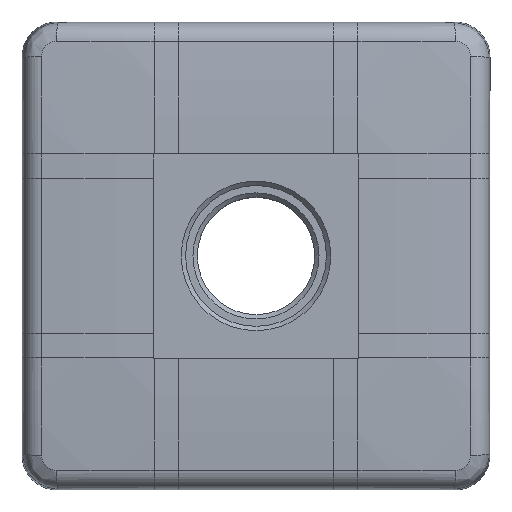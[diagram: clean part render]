
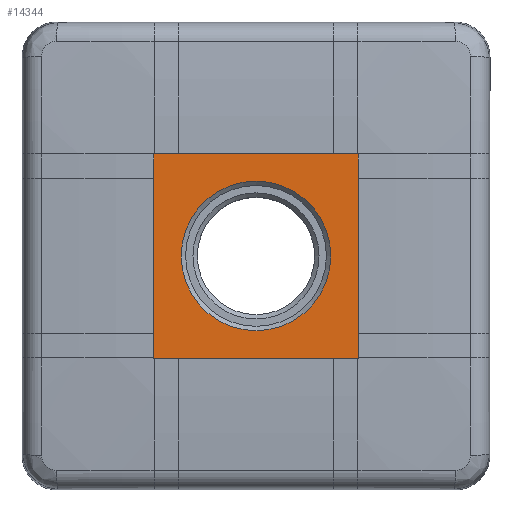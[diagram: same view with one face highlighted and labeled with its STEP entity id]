
A CAD part, top view. The second image highlights one B-rep face of the part: STEP entity #14344.
In plain terms, the highlighted planar face has unit normal (0, 0, 1).
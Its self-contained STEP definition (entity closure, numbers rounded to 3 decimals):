
#14194=CARTESIAN_POINT('',(-139.9,-39.9,10.0));
#14195=DIRECTION('',(0.0,0.0,-1.0));
#14196=DIRECTION('',(-1.0,0.0,0.0));
#14197=AXIS2_PLACEMENT_3D('',#14194,#14195,#14196);
#14198=PLANE('',#14197);
#14199=CARTESIAN_POINT('',(-82.54,-13.25,10.));
#14200=VERTEX_POINT('',#14199);
#14201=CARTESIAN_POINT('',(-82.54,13.25,10.));
#14202=VERTEX_POINT('',#14201);
#14203=CARTESIAN_POINT('',(-82.54,-13.25,10.));
#14204=DIRECTION('',(0.0,1.0,0.0));
#14205=VECTOR('',#14204,1.0);
#14206=LINE('',#14203,#14205);
#14207=EDGE_CURVE('',#14200,#14202,#14206,.T.);
#14208=ORIENTED_EDGE('',*,*,#14207,.T.);
#14209=CARTESIAN_POINT('',(-82.54,17.382,10.));
#14210=VERTEX_POINT('',#14209);
#14211=CARTESIAN_POINT('',(-82.54,17.382,10.));
#14212=DIRECTION('',(0.0,-1.0,0.0));
#14213=VECTOR('',#14212,1.0);
#14214=LINE('',#14211,#14213);
#14215=EDGE_CURVE('',#14210,#14202,#14214,.T.);
#14216=ORIENTED_EDGE('',*,*,#14215,.F.);
#14217=CARTESIAN_POINT('',(-82.618,17.46,10.));
#14218=VERTEX_POINT('',#14217);
#14219=CARTESIAN_POINT('',(-82.618,17.382,10.));
#14220=DIRECTION('',(0.0,0.0,-1.0));
#14221=DIRECTION('',(-1.0,0.0,0.0));
#14222=AXIS2_PLACEMENT_3D('',#14219,#14220,#14221);
#14223=CIRCLE('',#14222,0.077);
#14224=EDGE_CURVE('',#14218,#14210,#14223,.T.);
#14225=ORIENTED_EDGE('',*,*,#14224,.F.);
#14226=CARTESIAN_POINT('',(-86.75,17.46,10.));
#14227=VERTEX_POINT('',#14226);
#14228=CARTESIAN_POINT('',(-100.,17.46,10.));
#14229=DIRECTION('',(1.0,0.0,0.0));
#14230=VECTOR('',#14229,1.0);
#14231=LINE('',#14228,#14230);
#14232=EDGE_CURVE('',#14227,#14218,#14231,.T.);
#14233=ORIENTED_EDGE('',*,*,#14232,.F.);
#14234=CARTESIAN_POINT('',(-113.25,17.46,10.));
#14235=VERTEX_POINT('',#14234);
#14236=CARTESIAN_POINT('',(-100.,17.46,10.));
#14237=DIRECTION('',(1.0,0.0,0.0));
#14238=VECTOR('',#14237,1.0);
#14239=LINE('',#14236,#14238);
#14240=EDGE_CURVE('',#14235,#14227,#14239,.T.);
#14241=ORIENTED_EDGE('',*,*,#14240,.F.);
#14242=CARTESIAN_POINT('',(-117.382,17.46,10.));
#14243=VERTEX_POINT('',#14242);
#14244=CARTESIAN_POINT('',(-100.,17.46,10.));
#14245=DIRECTION('',(1.0,0.0,0.0));
#14246=VECTOR('',#14245,1.0);
#14247=LINE('',#14244,#14246);
#14248=EDGE_CURVE('',#14243,#14235,#14247,.T.);
#14249=ORIENTED_EDGE('',*,*,#14248,.F.);
#14250=CARTESIAN_POINT('',(-117.46,17.382,10.));
#14251=VERTEX_POINT('',#14250);
#14252=CARTESIAN_POINT('',(-117.382,17.382,10.));
#14253=DIRECTION('',(0.0,0.0,-1.0));
#14254=DIRECTION('',(-1.0,0.0,0.0));
#14255=AXIS2_PLACEMENT_3D('',#14252,#14253,#14254);
#14256=CIRCLE('',#14255,0.077);
#14257=EDGE_CURVE('',#14243,#14251,#14256,.F.);
#14258=ORIENTED_EDGE('',*,*,#14257,.T.);
#14259=CARTESIAN_POINT('',(-117.46,13.25,10.));
#14260=VERTEX_POINT('',#14259);
#14261=CARTESIAN_POINT('',(-117.46,17.382,10.));
#14262=DIRECTION('',(0.0,-1.0,0.0));
#14263=VECTOR('',#14262,1.0);
#14264=LINE('',#14261,#14263);
#14265=EDGE_CURVE('',#14251,#14260,#14264,.T.);
#14266=ORIENTED_EDGE('',*,*,#14265,.T.);
#14267=CARTESIAN_POINT('',(-117.46,-13.25,10.));
#14268=VERTEX_POINT('',#14267);
#14269=CARTESIAN_POINT('',(-117.46,-13.25,10.));
#14270=DIRECTION('',(0.0,1.0,0.0));
#14271=VECTOR('',#14270,1.0);
#14272=LINE('',#14269,#14271);
#14273=EDGE_CURVE('',#14268,#14260,#14272,.T.);
#14274=ORIENTED_EDGE('',*,*,#14273,.F.);
#14275=CARTESIAN_POINT('',(-117.46,-17.382,10.));
#14276=VERTEX_POINT('',#14275);
#14277=CARTESIAN_POINT('',(-117.46,-17.382,10.));
#14278=DIRECTION('',(0.0,1.0,0.0));
#14279=VECTOR('',#14278,1.0);
#14280=LINE('',#14277,#14279);
#14281=EDGE_CURVE('',#14276,#14268,#14280,.T.);
#14282=ORIENTED_EDGE('',*,*,#14281,.F.);
#14283=CARTESIAN_POINT('',(-117.382,-17.46,10.));
#14284=VERTEX_POINT('',#14283);
#14285=CARTESIAN_POINT('',(-117.382,-17.382,10.));
#14286=DIRECTION('',(0.0,0.0,-1.0));
#14287=DIRECTION('',(-1.0,0.0,0.0));
#14288=AXIS2_PLACEMENT_3D('',#14285,#14286,#14287);
#14289=CIRCLE('',#14288,0.077);
#14290=EDGE_CURVE('',#14284,#14276,#14289,.T.);
#14291=ORIENTED_EDGE('',*,*,#14290,.F.);
#14292=CARTESIAN_POINT('',(-113.25,-17.46,10.));
#14293=VERTEX_POINT('',#14292);
#14294=CARTESIAN_POINT('',(-100.,-17.46,10.));
#14295=DIRECTION('',(-1.0,0.0,0.0));
#14296=VECTOR('',#14295,1.0);
#14297=LINE('',#14294,#14296);
#14298=EDGE_CURVE('',#14284,#14293,#14297,.F.);
#14299=ORIENTED_EDGE('',*,*,#14298,.T.);
#14300=CARTESIAN_POINT('',(-86.75,-17.46,10.));
#14301=VERTEX_POINT('',#14300);
#14302=CARTESIAN_POINT('',(-100.,-17.46,10.));
#14303=DIRECTION('',(-1.0,0.0,0.0));
#14304=VECTOR('',#14303,1.0);
#14305=LINE('',#14302,#14304);
#14306=EDGE_CURVE('',#14293,#14301,#14305,.F.);
#14307=ORIENTED_EDGE('',*,*,#14306,.T.);
#14308=CARTESIAN_POINT('',(-82.618,-17.46,10.));
#14309=VERTEX_POINT('',#14308);
#14310=CARTESIAN_POINT('',(-100.,-17.46,10.));
#14311=DIRECTION('',(-1.0,0.0,0.0));
#14312=VECTOR('',#14311,1.0);
#14313=LINE('',#14310,#14312);
#14314=EDGE_CURVE('',#14301,#14309,#14313,.F.);
#14315=ORIENTED_EDGE('',*,*,#14314,.T.);
#14316=CARTESIAN_POINT('',(-82.54,-17.382,10.));
#14317=VERTEX_POINT('',#14316);
#14318=CARTESIAN_POINT('',(-82.618,-17.382,10.));
#14319=DIRECTION('',(0.0,0.0,-1.0));
#14320=DIRECTION('',(-1.0,0.0,0.0));
#14321=AXIS2_PLACEMENT_3D('',#14318,#14319,#14320);
#14322=CIRCLE('',#14321,0.077);
#14323=EDGE_CURVE('',#14309,#14317,#14322,.F.);
#14324=ORIENTED_EDGE('',*,*,#14323,.T.);
#14325=CARTESIAN_POINT('',(-82.54,-17.382,10.));
#14326=DIRECTION('',(0.0,1.0,0.0));
#14327=VECTOR('',#14326,1.0);
#14328=LINE('',#14325,#14327);
#14329=EDGE_CURVE('',#14317,#14200,#14328,.T.);
#14330=ORIENTED_EDGE('',*,*,#14329,.T.);
#14331=EDGE_LOOP('',(#14208,#14216,#14225,#14233,#14241,#14249,#14258,#14266,#14274,#14282,#14291,#14299,#14307,#14315,#14324,#14330));
#14332=FACE_OUTER_BOUND('',#14331,.T.);
#14333=CARTESIAN_POINT('',(-112.75,0.,10.0));
#14334=VERTEX_POINT('',#14333);
#14335=CARTESIAN_POINT('',(-100.,0.,10.0));
#14336=DIRECTION('',(0.0,0.0,-1.0));
#14337=DIRECTION('',(-1.0,0.0,0.0));
#14338=AXIS2_PLACEMENT_3D('',#14335,#14336,#14337);
#14339=CIRCLE('',#14338,12.75);
#14340=EDGE_CURVE('',#14334,#14334,#14339,.T.);
#14341=ORIENTED_EDGE('',*,*,#14340,.T.);
#14342=EDGE_LOOP('',(#14341));
#14343=FACE_BOUND('',#14342,.T.);
#14344=ADVANCED_FACE('',(#14332,#14343),#14198,.F.);
